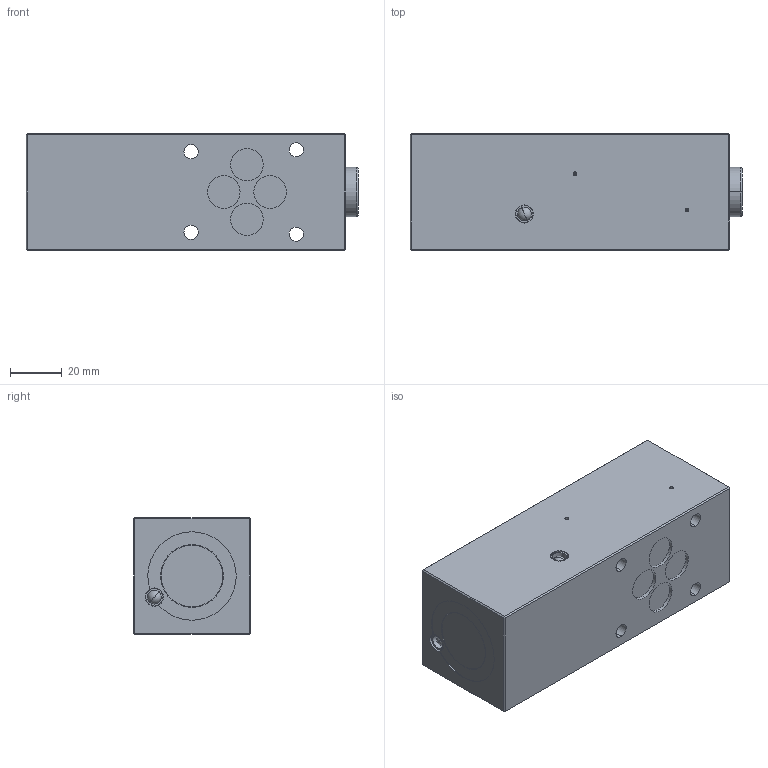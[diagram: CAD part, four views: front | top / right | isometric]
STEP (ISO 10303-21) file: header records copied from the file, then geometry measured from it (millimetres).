
FILE_DESCRIPTION (( 'STEP AP214' ), '1' );
FILE_NAME ('M..FA06-P_A.STEP', '2024-03-26T14:29:52', ( '' ), ( '' ), 'SwSTEP 2.0', 'SolidWorks 2022', '' );
FILE_SCHEMA (( 'AUTOMOTIVE_DESIGN' ));
Length unit declared in the file: millimetre
Products named in the file (1): M..FA06-P_A
Bounding box: 127.7 x 45 x 45 mm (x, y, z)
Volume: 243991.6 mm3; surface area: 31841.9 mm2
Topology: 4 solids, 8 shells, 226 faces, 507 edges, 314 vertices
Faces by surface type: plane 97, cylinder 78, cone 29, sphere 12, bspline 6, torus 4
Entity records: 9063 total; most frequent: CARTESIAN_POINT 1437, DIRECTION 1137, ORIENTED_EDGE 998, EDGE_CURVE 499, AXIS2_PLACEMENT_3D 434, VERTEX_POINT 314, LINE 269, VECTOR 269
